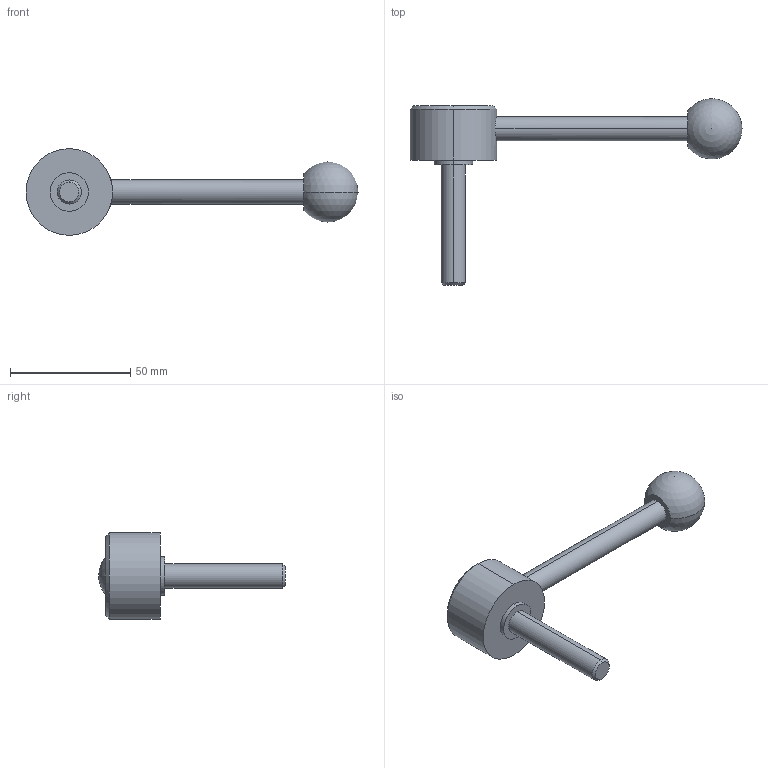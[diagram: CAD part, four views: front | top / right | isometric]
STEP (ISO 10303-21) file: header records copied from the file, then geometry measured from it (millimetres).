
FILE_DESCRIPTION (( 'STEP AP214' ), '1' );
FILE_NAME ('125.5-36-M10-50-D.step', '2020-02-18T11:30:19', ( '' ), ( '' ), 'SwSTEP 2.0', 'SolidWorks 2019', '' );
FILE_SCHEMA (( 'AUTOMOTIVE_DESIGN' ));
Length unit declared in the file: millimetre
Products named in the file (1): 125.5-36-M10-50-D
Bounding box: 138 x 77.5 x 36 mm (x, y, z)
Volume: 41399.1 mm3; surface area: 10436.5 mm2
Topology: 1 solids, 1 shells, 22 faces, 47 edges, 30 vertices
Faces by surface type: cylinder 10, plane 6, cone 4, sphere 2
Entity records: 738 total; most frequent: CARTESIAN_POINT 166, DIRECTION 112, ORIENTED_EDGE 84, AXIS2_PLACEMENT_3D 49, EDGE_CURVE 42, VERTEX_POINT 27, EDGE_LOOP 27, CIRCLE 26
